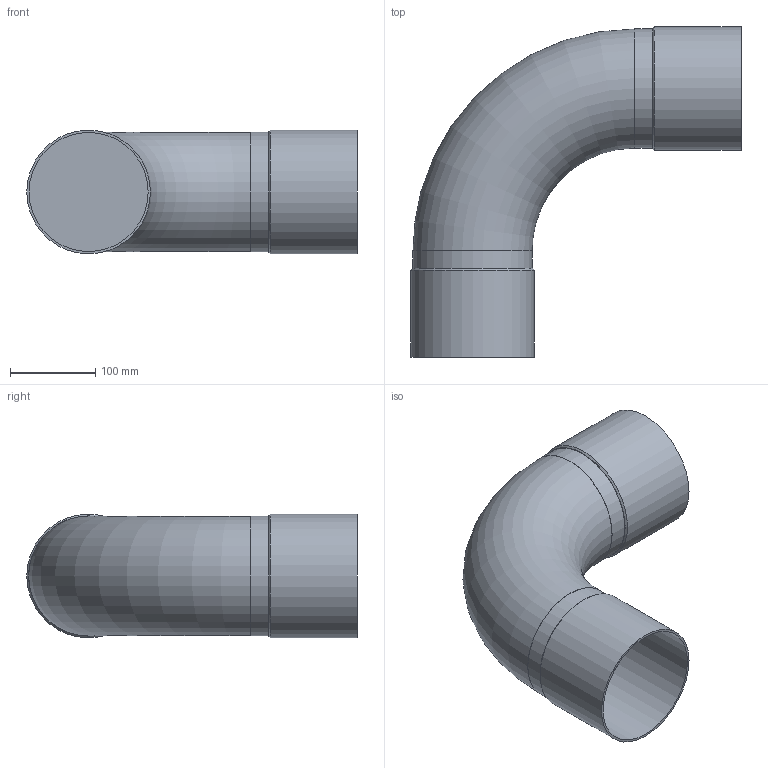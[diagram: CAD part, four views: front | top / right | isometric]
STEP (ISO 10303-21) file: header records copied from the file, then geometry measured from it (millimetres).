
FILE_DESCRIPTION( ( 'Unknown' ), '1' );
FILE_NAME( '//Server/ofimatica/alfredo/Alfredo2/ISOTUBI/PZAS3D/FICHATECNICA/NUMEPRESS/generico 3D/F3DN139,7.stp', 'Unknown', ( 'Unknown' ), ( 'Unknown' ), 'PSStep 14.0', 'Unknown', ' ' );
FILE_SCHEMA( ( 'AUTOMOTIVE_DESIGN { 1 0 10303 214 1 1 1 1 }' ) );
Length unit declared in the file: millimetre
Products named in the file (1): 1
Bounding box: 387.5 x 387.5 x 145 mm (x, y, z)
Volume: 5649801.1 mm3; surface area: 364546.4 mm2
Topology: 1 solids, 1 shells, 17 faces, 30 edges, 21 vertices
Faces by surface type: plane 8, cylinder 6, cone 2, torus 1
Full cylindrical faces by diameter (mm): 139.7 x2, 140 x2, 145 x2
Entity records: 486 total; most frequent: DIRECTION 68, CARTESIAN_POINT 50, AXIS2_PLACEMENT_3D 34, EDGE_LOOP 32, ORIENTED_EDGE 32, FACE_OUTER_BOUND 24, STYLED_ITEM 17, PRESENTATION_STYLE_ASSIGNMENT 17
